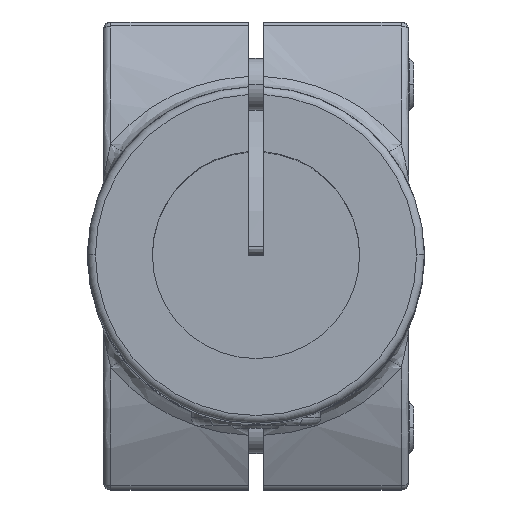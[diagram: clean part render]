
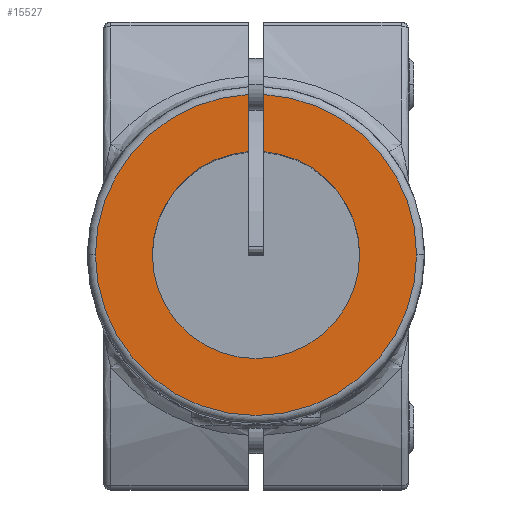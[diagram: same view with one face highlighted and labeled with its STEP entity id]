
A CAD part, top view. The second image highlights one B-rep face of the part: STEP entity #15527.
In plain terms, the highlighted planar face has unit normal (0, 0, 1) as drawn and (0, 0, -1) by its records, which use the part's own axes.
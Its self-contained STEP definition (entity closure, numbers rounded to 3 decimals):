
#101 = EDGE_LOOP ( 'NONE', ( #8421, #4864, #4488, #3646, #13599, #4474, #1028, #7437 ) ) ;
#309 = CARTESIAN_POINT ( 'NONE',  ( 0., 0., 0. ) ) ;
#745 = DIRECTION ( 'NONE',  ( -1., 0., 0. ) ) ;
#899 = FACE_OUTER_BOUND ( 'NONE', #101, .T. ) ;
#1028 = ORIENTED_EDGE ( 'NONE', *, *, #16166, .T. ) ;
#1394 = VERTEX_POINT ( 'NONE', #15794 ) ;
#1455 = CARTESIAN_POINT ( 'NONE',  ( 0., 0., 0. ) ) ;
#1697 = CARTESIAN_POINT ( 'NONE',  ( -1.5, 0., 0. ) ) ;
#2394 = VERTEX_POINT ( 'NONE', #9756 ) ;
#2401 = VERTEX_POINT ( 'NONE', #12288 ) ;
#2477 = DIRECTION ( 'NONE',  ( 0., 0., 1. ) ) ;
#3574 = CIRCLE ( 'NONE', #11204, 20. ) ;
#3646 = ORIENTED_EDGE ( 'NONE', *, *, #10100, .T. ) ;
#3785 = VERTEX_POINT ( 'NONE', #13422 ) ;
#4013 = LINE ( 'NONE', #1697, #7755 ) ;
#4016 = DIRECTION ( 'NONE',  ( -1., 0., 0. ) ) ;
#4474 = ORIENTED_EDGE ( 'NONE', *, *, #15433, .T. ) ;
#4488 = ORIENTED_EDGE ( 'NONE', *, *, #11439, .T. ) ;
#4497 = EDGE_CURVE ( 'NONE', #2394, #3785, #7660, .T. ) ;
#4632 = CARTESIAN_POINT ( 'NONE',  ( 0., 0., 0. ) ) ;
#4864 = ORIENTED_EDGE ( 'NONE', *, *, #4497, .T. ) ;
#4892 = EDGE_CURVE ( 'NONE', #2394, #1394, #6832, .T. ) ;
#6337 = DIRECTION ( 'NONE',  ( 0., 0., -1. ) ) ;
#6566 = CIRCLE ( 'NONE', #14736, 31. ) ;
#6659 = DIRECTION ( 'NONE',  ( 0., 1., 0. ) ) ;
#6832 = LINE ( 'NONE', #15494, #11354 ) ;
#6846 = CARTESIAN_POINT ( 'NONE',  ( -1.5, 19.944, 0. ) ) ;
#6892 = EDGE_CURVE ( 'NONE', #11175, #1394, #16295, .T. ) ;
#6924 = DIRECTION ( 'NONE',  ( 0., 0., -1. ) ) ;
#7113 = DIRECTION ( 'NONE',  ( 0., 0., 1. ) ) ;
#7437 = ORIENTED_EDGE ( 'NONE', *, *, #6892, .T. ) ;
#7515 = DIRECTION ( 'NONE',  ( -1., 0., 0. ) ) ;
#7660 = CIRCLE ( 'NONE', #8977, 31. ) ;
#7663 = CIRCLE ( 'NONE', #9781, 20. ) ;
#7755 = VECTOR ( 'NONE', #6659, 1000. ) ;
#7899 = DIRECTION ( 'NONE',  ( 0., -1., 0. ) ) ;
#7907 = DIRECTION ( 'NONE',  ( 1., 0., 0. ) ) ;
#8368 = DIRECTION ( 'NONE',  ( 1., 0., 0. ) ) ;
#8421 = ORIENTED_EDGE ( 'NONE', *, *, #4892, .F. ) ;
#8896 = DIRECTION ( 'NONE',  ( 0., 0., 1. ) ) ;
#8977 = AXIS2_PLACEMENT_3D ( 'NONE', #309, #6337, #7907 ) ;
#9109 = VERTEX_POINT ( 'NONE', #10381 ) ;
#9110 = VERTEX_POINT ( 'NONE', #6846 ) ;
#9302 = CARTESIAN_POINT ( 'NONE',  ( -31., 0., 0. ) ) ;
#9345 = EDGE_CURVE ( 'NONE', #9110, #2401, #4013, .T. ) ;
#9756 = CARTESIAN_POINT ( 'NONE',  ( 1.5, 30.964, 0. ) ) ;
#9781 = AXIS2_PLACEMENT_3D ( 'NONE', #1455, #8896, #4016 ) ;
#10100 = EDGE_CURVE ( 'NONE', #14023, #2401, #10150, .T. ) ;
#10150 = CIRCLE ( 'NONE', #10411, 31. ) ;
#10381 = CARTESIAN_POINT ( 'NONE',  ( -20., 0., 0. ) ) ;
#10411 = AXIS2_PLACEMENT_3D ( 'NONE', #12306, #16206, #8368 ) ;
#10633 = DIRECTION ( 'NONE',  ( 1., 0., 0. ) ) ;
#10745 = PLANE ( 'NONE',  #15968 ) ;
#11175 = VERTEX_POINT ( 'NONE', #12964 ) ;
#11204 = AXIS2_PLACEMENT_3D ( 'NONE', #4632, #13291, #745 ) ;
#11354 = VECTOR ( 'NONE', #7899, 1000. ) ;
#11439 = EDGE_CURVE ( 'NONE', #3785, #14023, #6566, .T. ) ;
#11782 = CARTESIAN_POINT ( 'NONE',  ( 0., 0., 0. ) ) ;
#12288 = CARTESIAN_POINT ( 'NONE',  ( -1.5, 30.964, 0. ) ) ;
#12306 = CARTESIAN_POINT ( 'NONE',  ( 0., 0., 0. ) ) ;
#12964 = CARTESIAN_POINT ( 'NONE',  ( 20., 0., 0. ) ) ;
#13291 = DIRECTION ( 'NONE',  ( 0., 0., 1. ) ) ;
#13422 = CARTESIAN_POINT ( 'NONE',  ( 31., 0., 0. ) ) ;
#13599 = ORIENTED_EDGE ( 'NONE', *, *, #9345, .F. ) ;
#13800 = CARTESIAN_POINT ( 'NONE',  ( 0., 0., 0. ) ) ;
#13933 = AXIS2_PLACEMENT_3D ( 'NONE', #13800, #2477, #7515 ) ;
#14023 = VERTEX_POINT ( 'NONE', #9302 ) ;
#14704 = CARTESIAN_POINT ( 'NONE',  ( 0., 0., 0. ) ) ;
#14736 = AXIS2_PLACEMENT_3D ( 'NONE', #11782, #6924, #10633 ) ;
#15433 = EDGE_CURVE ( 'NONE', #9110, #9109, #3574, .T. ) ;
#15494 = CARTESIAN_POINT ( 'NONE',  ( 1.5, 0., 0. ) ) ;
#15527 = ADVANCED_FACE ( 'NONE', ( #899 ), #10745, .F. ) ;
#15779 = DIRECTION ( 'NONE',  ( 1., 0., 0. ) ) ;
#15794 = CARTESIAN_POINT ( 'NONE',  ( 1.5, 19.944, 0. ) ) ;
#15968 = AXIS2_PLACEMENT_3D ( 'NONE', #14704, #7113, #15779 ) ;
#16166 = EDGE_CURVE ( 'NONE', #9109, #11175, #7663, .T. ) ;
#16206 = DIRECTION ( 'NONE',  ( 0., 0., -1. ) ) ;
#16295 = CIRCLE ( 'NONE', #13933, 20. ) ;
